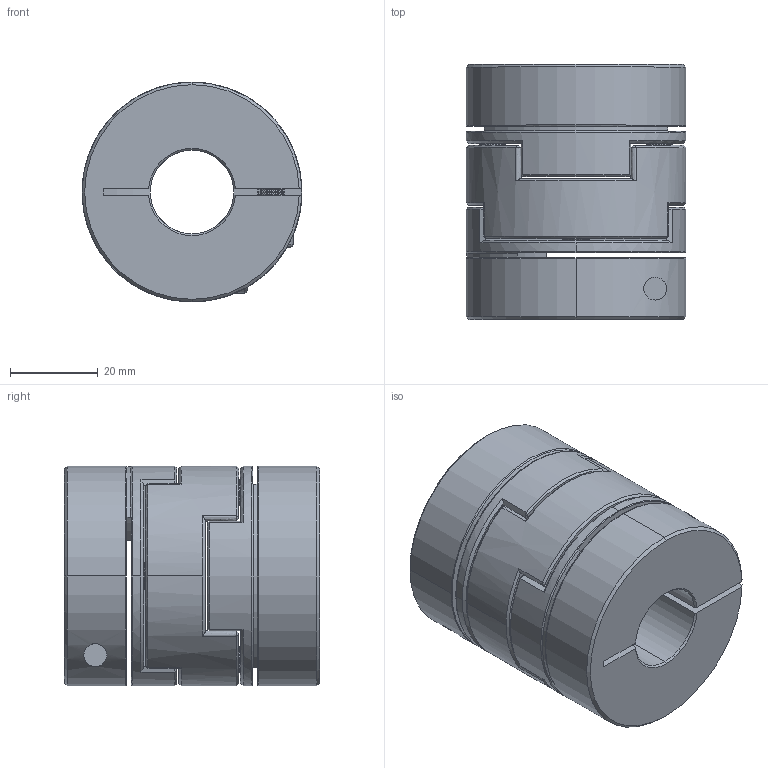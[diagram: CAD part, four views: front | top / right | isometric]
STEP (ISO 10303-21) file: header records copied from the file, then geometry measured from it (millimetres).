
FILE_DESCRIPTION (( 'STEP AP203' ), '1' );
FILE_NAME ('LZ-B-D50L58-19-24.STEP', '2021-10-29T08:15:37', ( '' ), ( '' ), 'SwSTEP 2.0', 'SolidWorks 2018', '' );
FILE_SCHEMA (( 'CONFIG_CONTROL_DESIGN' ));
Length unit declared in the file: millimetre
Products named in the file (1): LZ-B-D50L58-19-24
Bounding box: 50 x 58 x 50 mm (x, y, z)
Volume: 85153 mm3; surface area: 29516.7 mm2
Topology: 1 solids, 27 shells, 561 faces, 1370 edges, 814 vertices
Faces by surface type: cone 252, cylinder 160, plane 91, bspline 54, torus 4
Entity records: 17482 total; most frequent: CARTESIAN_POINT 4365, DIRECTION 2786, ORIENTED_EDGE 2732, EDGE_CURVE 1366, AXIS2_PLACEMENT_3D 1124, VERTEX_POINT 814, CIRCLE 616, EDGE_LOOP 594
